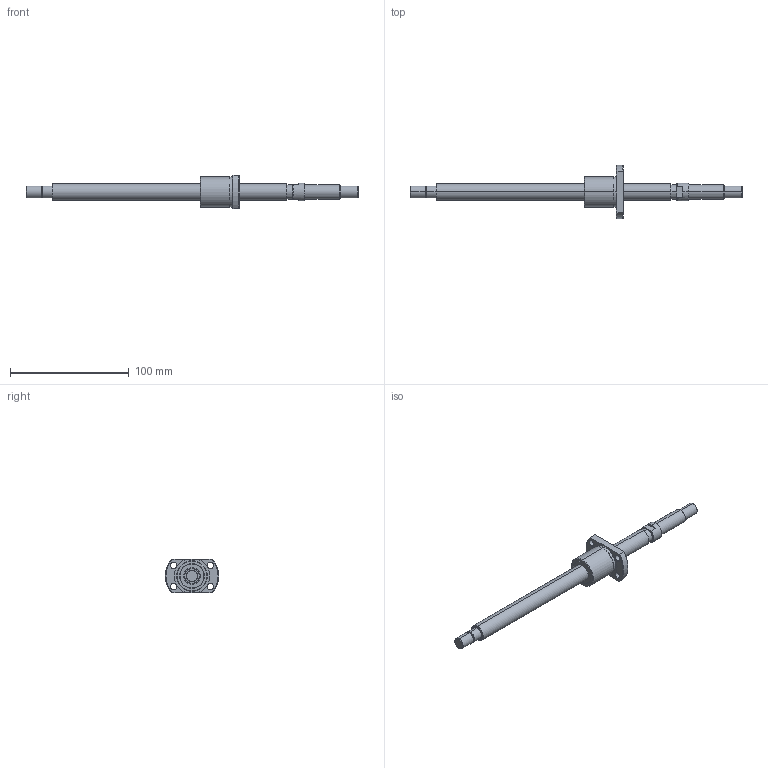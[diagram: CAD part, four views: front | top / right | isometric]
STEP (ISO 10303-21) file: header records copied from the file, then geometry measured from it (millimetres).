
FILE_DESCRIPTION (( 'STEP AP214' ), '1' );
FILE_NAME ('BS1404K-3D.STEP', '2014-03-05T15:13:23', ( '' ), ( '' ), 'SwSTEP 2.0', 'SolidWorks 2012', '' );
FILE_SCHEMA (( 'AUTOMOTIVE_DESIGN' ));
Length unit declared in the file: millimetre
Products named in the file (3): BS1404Kナット; BS1404KŽ²; BS1404K-3D
Assembly tree (2 placements, depth 2):
  BS1404K-3D
    BS1404KŽ²
    BS1404Kナット
Bounding box: 280 x 45 x 28 mm (x, y, z)
Volume: 76842.3 mm3; surface area: 28379.7 mm2
Topology: 5 solids, 5 shells, 104 faces, 228 edges, 144 vertices
Faces by surface type: cylinder 48, plane 30, cone 26
Entity records: 3063 total; most frequent: DIRECTION 560, CARTESIAN_POINT 517, ORIENTED_EDGE 456, AXIS2_PLACEMENT_3D 235, EDGE_CURVE 228, VERTEX_POINT 144, EDGE_LOOP 128, CIRCLE 126
